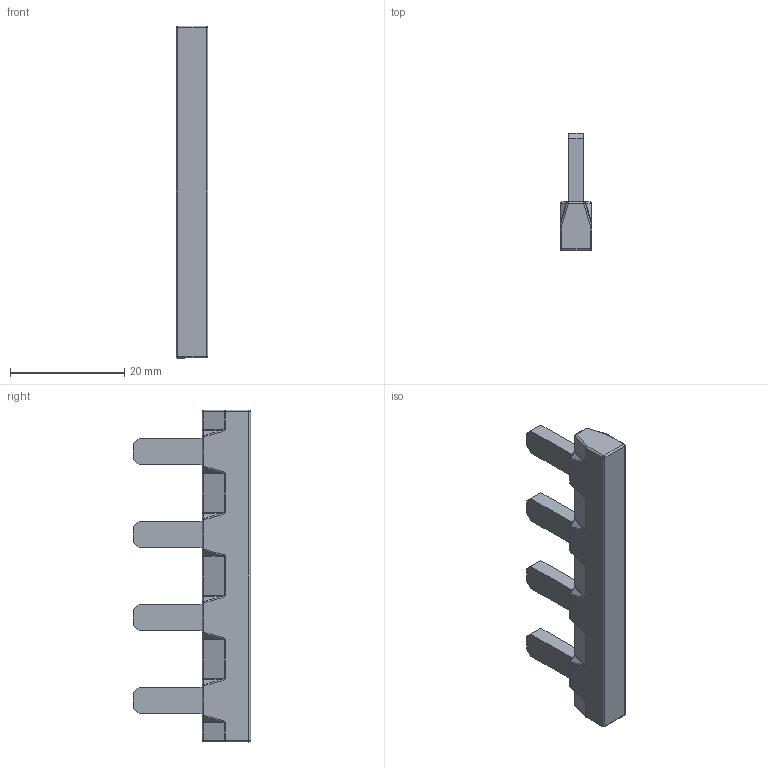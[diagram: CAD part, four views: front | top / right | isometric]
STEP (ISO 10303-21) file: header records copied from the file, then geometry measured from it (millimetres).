
FILE_DESCRIPTION (( 'STEP AP214' ), '1' );
FILE_NAME ('327-J-04.STEP', '2008-04-16T02:43:04', ( ' ' ), ( '' ), 'SwSTEP 2.0', 'SolidWorks 2007', '' );
FILE_SCHEMA (( 'AUTOMOTIVE_DESIGN' ));
Length unit declared in the file: millimetre
Products named in the file (1): 327-J-04
Bounding box: 5.5 x 20.5 x 58 mm (x, y, z)
Volume: 3115.3 mm3; surface area: 2359.6 mm2
Topology: 8 solids, 8 shells, 258 faces, 578 edges, 315 vertices
Faces by surface type: cylinder 97, plane 88, bspline 73
Entity records: 8173 total; most frequent: CARTESIAN_POINT 2966, ORIENTED_EDGE 1106, DIRECTION 963, EDGE_CURVE 553, AXIS2_PLACEMENT_3D 331, VERTEX_POINT 315, VECTOR 301, LINE 301
